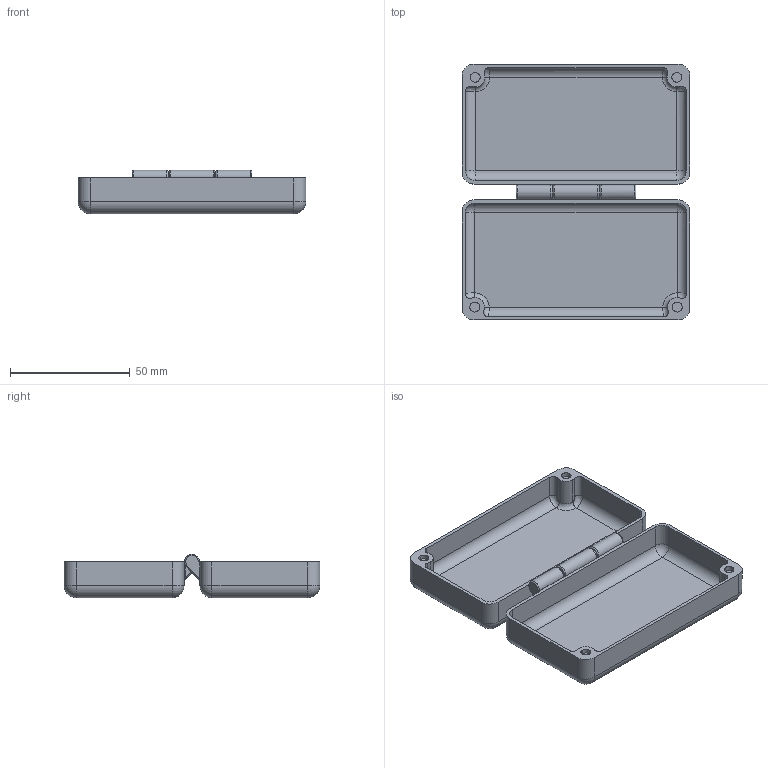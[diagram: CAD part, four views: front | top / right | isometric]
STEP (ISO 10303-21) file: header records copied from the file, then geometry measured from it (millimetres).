
FILE_DESCRIPTION (( 'STEP AP214' ), '1' );
FILE_NAME ('Assem_PRINT.STEP', '2023-04-21T11:10:33', ( '' ), ( '' ), 'SwSTEP 2.0', 'SolidWorks 2018', '' );
FILE_SCHEMA (( 'AUTOMOTIVE_DESIGN' ));
Length unit declared in the file: millimetre
Products named in the file (3): Assem_PRINT; BOXXXXXX_DOWN; BOXXXXXX_UP
Assembly tree (2 placements, depth 2):
  Assem_PRINT
    BOXXXXXX_DOWN
    BOXXXXXX_UP
Bounding box: 95 x 106.6 x 18.1 mm (x, y, z)
Volume: 28309.9 mm3; surface area: 33556.3 mm2
Topology: 2 solids, 2 shells, 168 faces, 394 edges, 226 vertices
Faces by surface type: cylinder 68, plane 41, torus 27, sphere 12, bspline 12, cone 8
Entity records: 5457 total; most frequent: CARTESIAN_POINT 1559, DIRECTION 869, ORIENTED_EDGE 760, EDGE_CURVE 380, AXIS2_PLACEMENT_3D 356, VERTEX_POINT 226, CIRCLE 195, EDGE_LOOP 178
